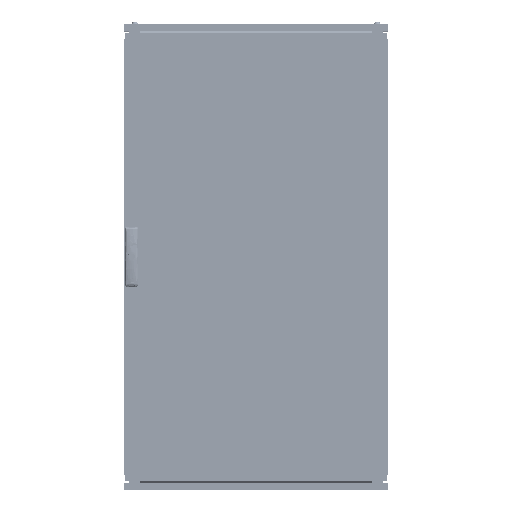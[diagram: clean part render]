
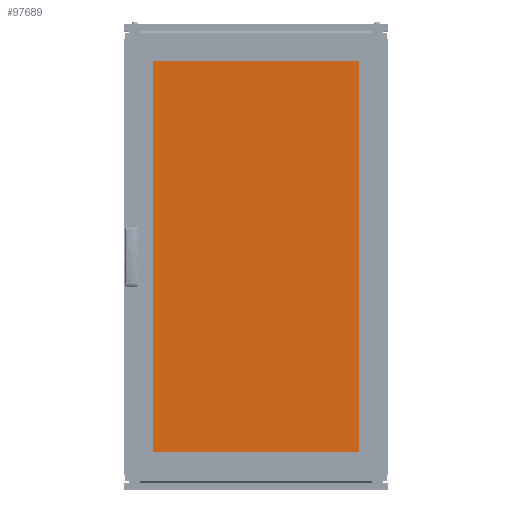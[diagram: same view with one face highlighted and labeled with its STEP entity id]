
A CAD part, top view. The second image highlights one B-rep face of the part: STEP entity #97689.
In plain terms, the highlighted planar face has unit normal (0, 0, 1).
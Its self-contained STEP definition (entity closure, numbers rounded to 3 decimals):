
#8501 = EDGE_CURVE ( 'NONE', #8505, #110093, #92971, .T. ) ;
#8505 = VERTEX_POINT ( 'NONE', #141204 ) ;
#18759 = VECTOR ( 'NONE', #129533, 1000. ) ;
#26997 = VERTEX_POINT ( 'NONE', #64552 ) ;
#27042 = EDGE_LOOP ( 'NONE', ( #108353, #36997, #69056, #84229 ) ) ;
#33898 = FACE_OUTER_BOUND ( 'NONE', #27042, .T. ) ;
#35412 = LINE ( 'NONE', #129748, #119464 ) ;
#36997 = ORIENTED_EDGE ( 'NONE', *, *, #8501, .T. ) ;
#47234 = PLANE ( 'NONE',  #128449 ) ;
#48249 = DIRECTION ( 'NONE',  ( 0., -1., 0. ) ) ;
#50529 = CARTESIAN_POINT ( 'NONE',  ( -330., 610., 5. ) ) ;
#53573 = EDGE_CURVE ( 'NONE', #26997, #8505, #35412, .T. ) ;
#60350 = CARTESIAN_POINT ( 'NONE',  ( -330., -610., 5. ) ) ;
#61218 = CARTESIAN_POINT ( 'NONE',  ( -330., 610., 5. ) ) ;
#63366 = CARTESIAN_POINT ( 'NONE',  ( -330., -610., 5. ) ) ;
#64552 = CARTESIAN_POINT ( 'NONE',  ( 330., -610., 5. ) ) ;
#69056 = ORIENTED_EDGE ( 'NONE', *, *, #122213, .T. ) ;
#75288 = VECTOR ( 'NONE', #185538, 1000. ) ;
#75750 = LINE ( 'NONE', #60350, #75288 ) ;
#81337 = LINE ( 'NONE', #143924, #18759 ) ;
#84229 = ORIENTED_EDGE ( 'NONE', *, *, #111038, .T. ) ;
#92971 = LINE ( 'NONE', #61218, #122238 ) ;
#97689 = ADVANCED_FACE ( 'NONE', ( #33898 ), #47234, .F. ) ;
#106873 = VERTEX_POINT ( 'NONE', #63366 ) ;
#108353 = ORIENTED_EDGE ( 'NONE', *, *, #53573, .T. ) ;
#110093 = VERTEX_POINT ( 'NONE', #50529 ) ;
#111038 = EDGE_CURVE ( 'NONE', #106873, #26997, #81337, .T. ) ;
#119464 = VECTOR ( 'NONE', #128741, 1000. ) ;
#122213 = EDGE_CURVE ( 'NONE', #110093, #106873, #75750, .T. ) ;
#122238 = VECTOR ( 'NONE', #199773, 1000. ) ;
#128449 = AXIS2_PLACEMENT_3D ( 'NONE', #189820, #176436, #48249 ) ;
#128741 = DIRECTION ( 'NONE',  ( 0., 1., 0. ) ) ;
#129533 = DIRECTION ( 'NONE',  ( 1., 0., 0. ) ) ;
#129748 = CARTESIAN_POINT ( 'NONE',  ( 330., -610., 5. ) ) ;
#141204 = CARTESIAN_POINT ( 'NONE',  ( 330., 610., 5. ) ) ;
#143924 = CARTESIAN_POINT ( 'NONE',  ( -330., -610., 5. ) ) ;
#176436 = DIRECTION ( 'NONE',  ( 0., 0., -1. ) ) ;
#185538 = DIRECTION ( 'NONE',  ( 0., -1., 0. ) ) ;
#189820 = CARTESIAN_POINT ( 'NONE',  ( 0., 0., 5. ) ) ;
#199773 = DIRECTION ( 'NONE',  ( -1., 0., 0. ) ) ;
